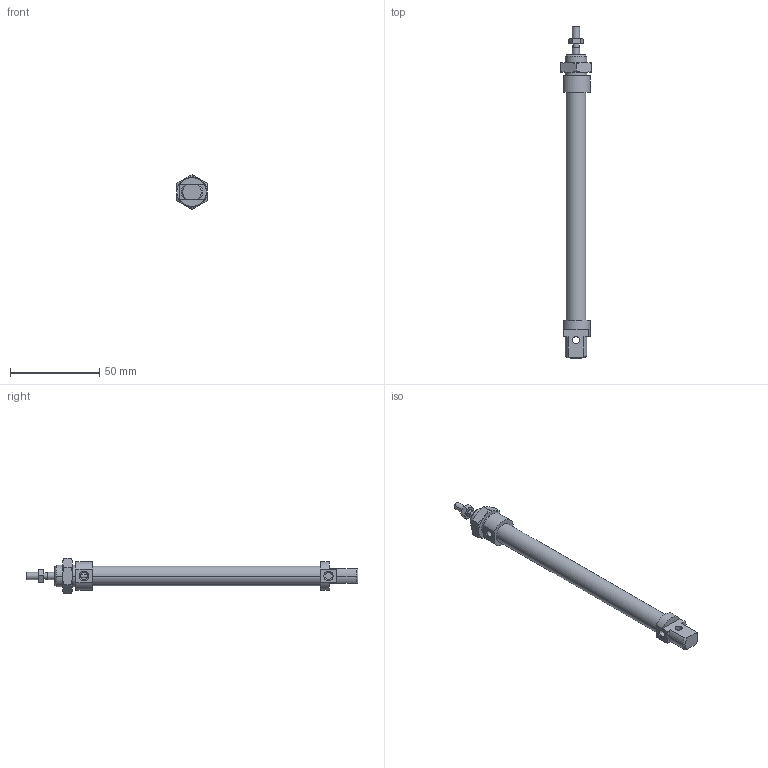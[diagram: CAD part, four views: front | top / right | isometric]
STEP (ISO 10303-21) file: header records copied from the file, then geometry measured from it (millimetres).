
FILE_DESCRIPTION((''),'2;1');
FILE_NAME('I:\DOC-EDP\Lib-3d\1200\CILINDRI\1280\1280_10_0100.stp','2003-04-07T14:47:17',('maffial1'),(''),'Autodesk Inventor (R) 6.0','Autodesk Inventor (R) 6.0','');
FILE_SCHEMA(('AUTOMOTIVE_DESIGN { 1 0 10303 214 1 1 1 1 }'));
Length unit declared in the file: millimetre
Products named in the file (5): 1280_10_0100; S1280_10_100; 1200_10_05; 1200_10_06; C1280_10_100
Assembly tree (4 placements, depth 2):
  1280_10_0100
    S1280_10_100
    1200_10_05
    1200_10_06
    C1280_10_100
Bounding box: 17 x 186 x 19.63 mm (x, y, z)
Volume: 19109.6 mm3; surface area: 11210.4 mm2
Topology: 4 solids, 4 shells, 117 faces, 261 edges, 158 vertices
Faces by surface type: cone 40, plane 34, cylinder 22, bspline 21
Entity records: 3582 total; most frequent: CARTESIAN_POINT 992, DIRECTION 531, ORIENTED_EDGE 522, EDGE_CURVE 261, AXIS2_PLACEMENT_3D 221, VERTEX_POINT 158, EDGE_LOOP 131, FACE_OUTER_BOUND 117
